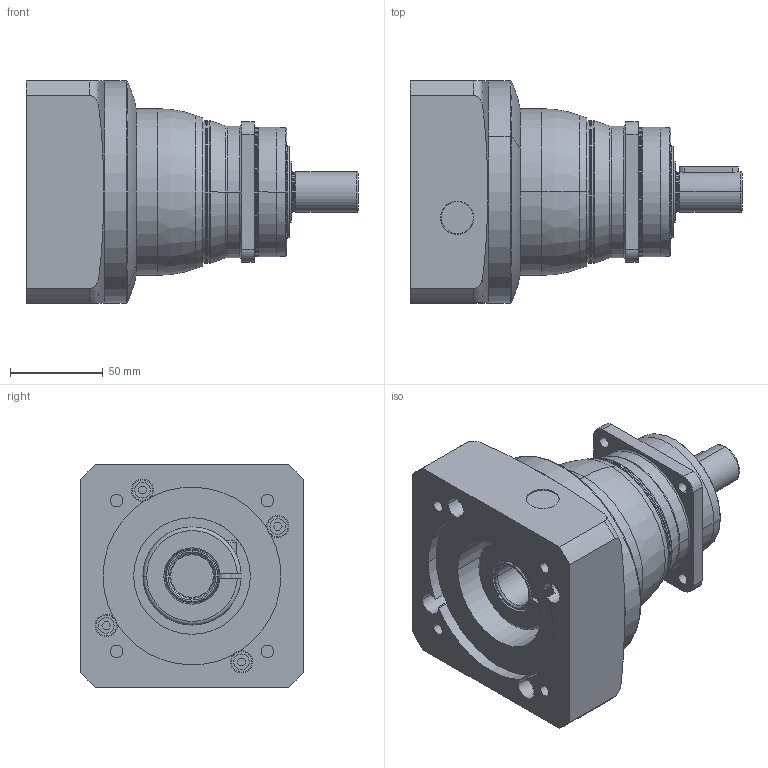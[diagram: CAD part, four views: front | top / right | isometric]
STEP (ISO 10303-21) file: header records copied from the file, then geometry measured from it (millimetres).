
FILE_DESCRIPTION(('STEP AP214'),'1');
FILE_NAME('20180723_141925128.stp','2018-07-23T12:19:26',(''),(''),'XStep 1.0','it-motive AG (itm_Acis_A0018_00R.dll)',' ');
FILE_SCHEMA(('AUTOMOTIVE_DESIGN { 1 0 10303 214 1 1 1 1 }'));
Length unit declared in the file: millimetre
Products named in the file (1): Abtrieb_NPS_m060
Bounding box: 179.25 x 120 x 120 mm (x, y, z)
Volume: 1062066.1 mm3; surface area: 142177.5 mm2
Topology: 6 solids, 6 shells, 325 faces, 759 edges, 470 vertices
Faces by surface type: cylinder 132, plane 101, torus 52, cone 40
Entity records: 13040 total; most frequent: CARTESIAN_POINT 2662, DIRECTION 1760, ORIENTED_EDGE 1494, EDGE_CURVE 747, AXIS2_PLACEMENT_3D 726, VERTEX_POINT 470, CIRCLE 395, EDGE_LOOP 379
